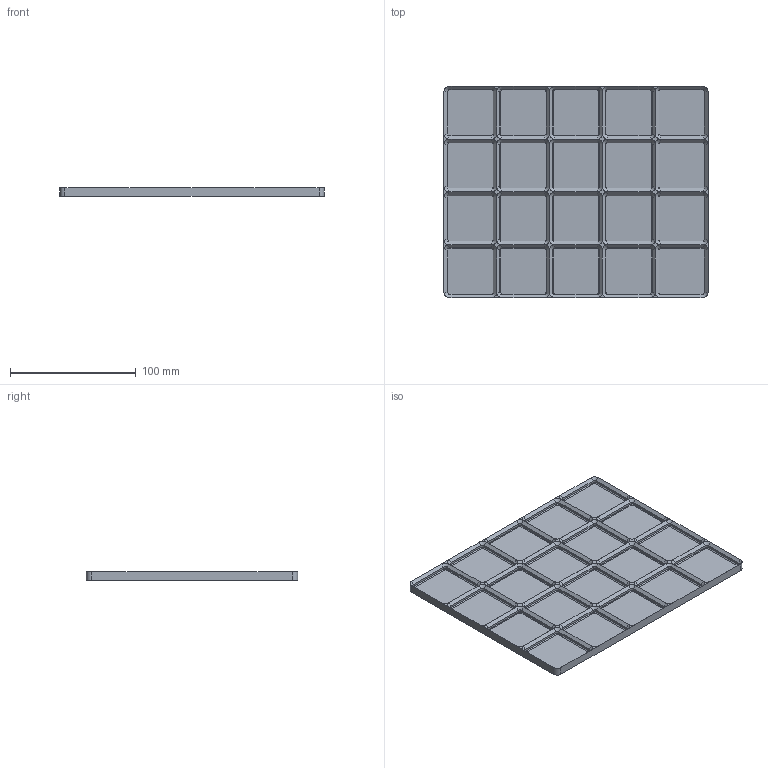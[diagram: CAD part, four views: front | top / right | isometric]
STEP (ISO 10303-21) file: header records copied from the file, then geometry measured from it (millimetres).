
FILE_DESCRIPTION(('Open CASCADE Model'),'2;1');
FILE_NAME('baseplate_5x4','2026-11-03T10:51:21',('Author'),( 'Open CASCADE'),'Open CASCADE STEP processor 8.0','build123d', 'Unknown');
FILE_SCHEMA(('AUTOMOTIVE_DESIGN { 1 0 10303 214 1 1 1 1 }'));
Length unit declared in the file: millimetre
Products named in the file (1): baseplate_5x4
Bounding box: 210 x 168 x 6.65 mm (x, y, z)
Volume: 96298 mm3; surface area: 84421.7 mm2
Topology: 1 solids, 1 shells, 535 faces, 1119 edges, 586 vertices
Faces by surface type: plane 291, cone 160, cylinder 84
Entity records: 26742 total; most frequent: CARTESIAN_POINT 5947, DIRECTION 3305, ORIENTED_EDGE 2238, PCURVE 2238, DEFINITIONAL_REPRESENTATION 2238, B_SPLINE_CURVE_WITH_KNOTS 1444, LINE 1429, VECTOR 1429
